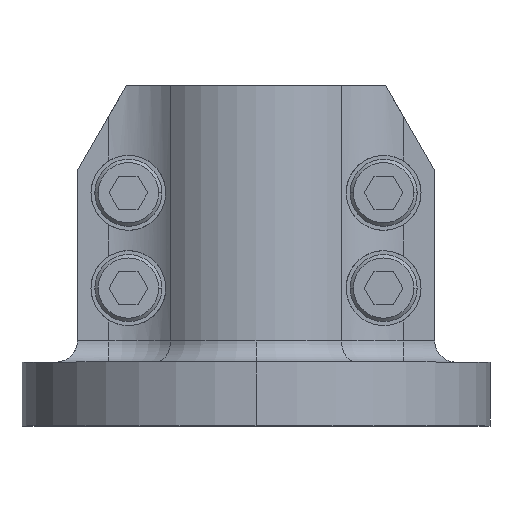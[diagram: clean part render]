
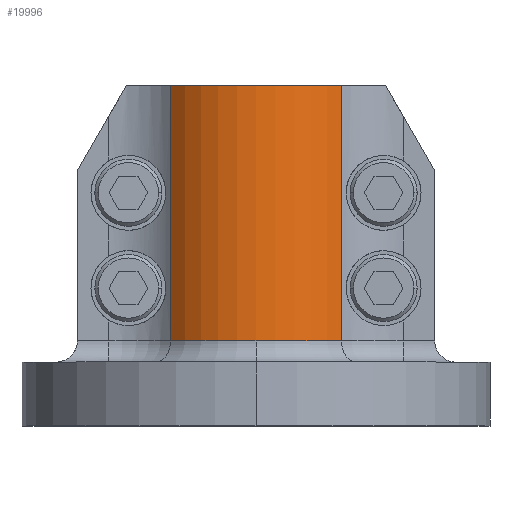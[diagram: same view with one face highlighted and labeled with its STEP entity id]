
A CAD part, top view. The second image highlights one B-rep face of the part: STEP entity #19996.
In plain terms, the highlighted cylindrical face has radius 17.475 mm (diameter 34.95 mm), a partial arc.
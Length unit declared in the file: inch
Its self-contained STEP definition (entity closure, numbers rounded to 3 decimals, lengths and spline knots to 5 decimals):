
#2748 = AXIS2_PLACEMENT_3D ( 'NONE', #25410, #25411, #25412 ) ;
#2849 = AXIS2_PLACEMENT_3D ( 'NONE', #9492, #9493, #9494 ) ;
#2875 = AXIS2_PLACEMENT_3D ( 'NONE', #9750, #9751, #9752 ) ;
#3766 = VERTEX_POINT ( 'NONE', #4116 ) ;
#3769 = VERTEX_POINT ( 'NONE', #4115 ) ;
#4115 = CARTESIAN_POINT ( 'NONE',  ( 0., 0.5, 0.688 ) ) ;
#4116 = CARTESIAN_POINT ( 'NONE',  ( 0.50166, 0.5, 0.47083 ) ) ;
#5601 = EDGE_CURVE ( 'NONE', #3769, #3766, #13287, .T. ) ;
#6415 = LINE ( 'NONE', #9490, #6416 ) ;
#6416 = VECTOR ( 'NONE', #9491, 39.37008 ) ;
#6417 = CIRCLE ( 'NONE', #2849, 0.688 ) ;
#6466 = LINE ( 'NONE', #9681, #6467 ) ;
#6467 = VECTOR ( 'NONE', #9682, 39.37008 ) ;
#6495 = CIRCLE ( 'NONE', #2875, 0.688 ) ;
#7011 = VERTEX_POINT ( 'NONE', #12343 ) ;
#7023 = VERTEX_POINT ( 'NONE', #12355 ) ;
#7024 = VERTEX_POINT ( 'NONE', #12356 ) ;
#8143 = AXIS2_PLACEMENT_3D ( 'NONE', #14265, #14267, #14269 ) ;
#9490 = CARTESIAN_POINT ( 'NONE',  ( 0.50166, 2., 0.47083 ) ) ;
#9491 = DIRECTION ( 'NONE',  ( 0., -1., 0. ) ) ;
#9492 = CARTESIAN_POINT ( 'NONE',  ( 0., 0.5, 0. ) ) ;
#9493 = DIRECTION ( 'NONE',  ( 0., 1., 0. ) ) ;
#9494 = DIRECTION ( 'NONE',  ( 0., 0., 1. ) ) ;
#9681 = CARTESIAN_POINT ( 'NONE',  ( -0.50166, 2., 0.47083 ) ) ;
#9682 = DIRECTION ( 'NONE',  ( 0., -1., 0. ) ) ;
#9750 = CARTESIAN_POINT ( 'NONE',  ( 0., 2., 0. ) ) ;
#9751 = DIRECTION ( 'NONE',  ( 0., 1., 0. ) ) ;
#9752 = DIRECTION ( 'NONE',  ( 0., 0., 1. ) ) ;
#11280 = EDGE_LOOP ( 'NONE', ( #16318, #16319, #23714, #23715, #23716 ) ) ;
#12343 = CARTESIAN_POINT ( 'NONE',  ( -0.50166, 0.5, 0.47083 ) ) ;
#12355 = CARTESIAN_POINT ( 'NONE',  ( 0.50166, 2., 0.47083 ) ) ;
#12356 = CARTESIAN_POINT ( 'NONE',  ( -0.50166, 2., 0.47083 ) ) ;
#13287 = CIRCLE ( 'NONE', #8143, 0.688 ) ;
#14265 = CARTESIAN_POINT ( 'NONE',  ( 0., 0.5, 0. ) ) ;
#14267 = DIRECTION ( 'NONE',  ( 0., 1., 0. ) ) ;
#14269 = DIRECTION ( 'NONE',  ( 0., 0., 1. ) ) ;
#16318 = ORIENTED_EDGE ( 'NONE', *, *, #20241, .T. ) ;
#16319 = ORIENTED_EDGE ( 'NONE', *, *, #20201, .T. ) ;
#19996 = ADVANCED_FACE ( 'NONE', ( #24964 ), #24965, .T. ) ;
#20200 = EDGE_CURVE ( 'NONE', #7023, #3766, #6415, .T. ) ;
#20201 = EDGE_CURVE ( 'NONE', #7011, #3769, #6417, .T. ) ;
#20241 = EDGE_CURVE ( 'NONE', #7024, #7011, #6466, .T. ) ;
#20260 = EDGE_CURVE ( 'NONE', #7024, #7023, #6495, .T. ) ;
#23714 = ORIENTED_EDGE ( 'NONE', *, *, #5601, .T. ) ;
#23715 = ORIENTED_EDGE ( 'NONE', *, *, #20200, .F. ) ;
#23716 = ORIENTED_EDGE ( 'NONE', *, *, #20260, .F. ) ;
#24964 = FACE_OUTER_BOUND ( 'NONE', #11280, .T. ) ;
#24965 = CYLINDRICAL_SURFACE ( 'NONE', #2748, 0.688 ) ;
#25410 = CARTESIAN_POINT ( 'NONE',  ( 0., 2., 0. ) ) ;
#25411 = DIRECTION ( 'NONE',  ( 0., -1., 0. ) ) ;
#25412 = DIRECTION ( 'NONE',  ( 0., 0., -1. ) ) ;
